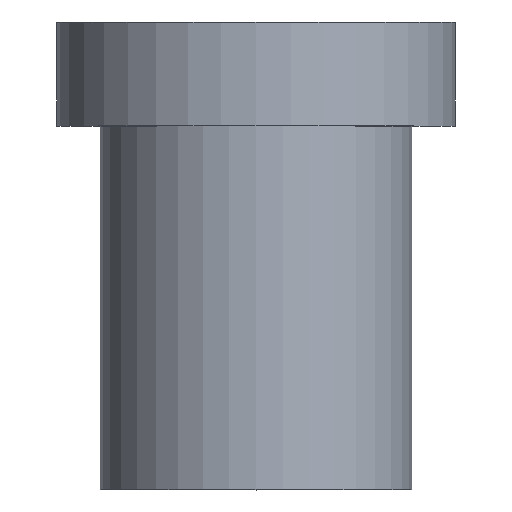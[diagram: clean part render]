
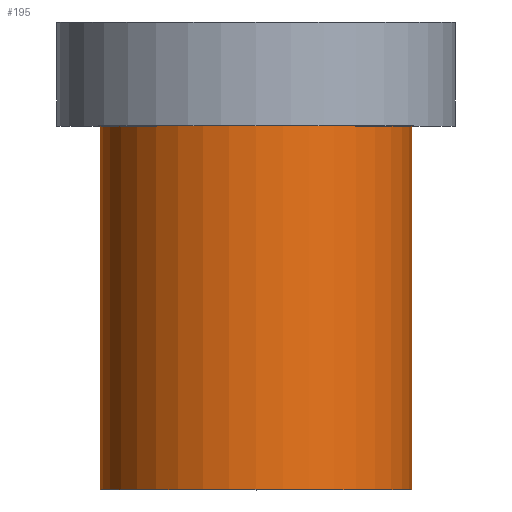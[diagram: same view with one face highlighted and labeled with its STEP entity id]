
A CAD part, top view. The second image highlights one B-rep face of the part: STEP entity #195.
In plain terms, the highlighted cylindrical face has radius 9 mm (diameter 18 mm), a full revolution.
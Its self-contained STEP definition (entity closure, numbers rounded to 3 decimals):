
#32=ORIENTED_EDGE('',*,*,#50,.T.);
#33=ORIENTED_EDGE('',*,*,#49,.F.);
#49=EDGE_CURVE('',#59,#59,#69,.T.);
#50=EDGE_CURVE('',#60,#60,#70,.T.);
#59=VERTEX_POINT('',#280);
#60=VERTEX_POINT('',#283);
#69=CIRCLE('',#213,9.);
#70=CIRCLE('',#215,9.);
#82=EDGE_LOOP('',(#32));
#83=EDGE_LOOP('',(#33));
#102=FACE_BOUND('',#82,.T.);
#103=FACE_BOUND('',#83,.T.);
#117=CYLINDRICAL_SURFACE('',#214,9.);
#195=ADVANCED_FACE('',(#102,#103),#117,.T.);
#213=AXIS2_PLACEMENT_3D('',#279,#241,#242);
#214=AXIS2_PLACEMENT_3D('',#281,#243,#244);
#215=AXIS2_PLACEMENT_3D('',#282,#245,#246);
#241=DIRECTION('',(0.,-1.,0.));
#242=DIRECTION('',(0.,0.,-1.));
#243=DIRECTION('',(0.,-1.,0.));
#244=DIRECTION('',(0.,0.,-1.));
#245=DIRECTION('',(0.,-1.,0.));
#246=DIRECTION('',(0.,0.,-1.));
#279=CARTESIAN_POINT('',(0.,0.,0.));
#280=CARTESIAN_POINT('',(0.,0.,-9.));
#281=CARTESIAN_POINT('',(0.,0.,0.));
#282=CARTESIAN_POINT('',(0.,21.,0.));
#283=CARTESIAN_POINT('',(0.,21.,-9.));
